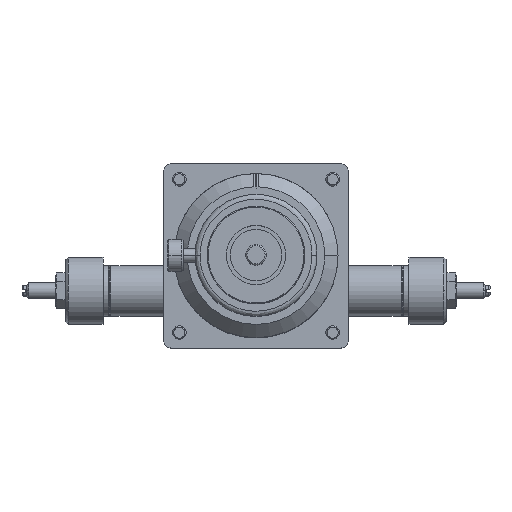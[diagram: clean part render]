
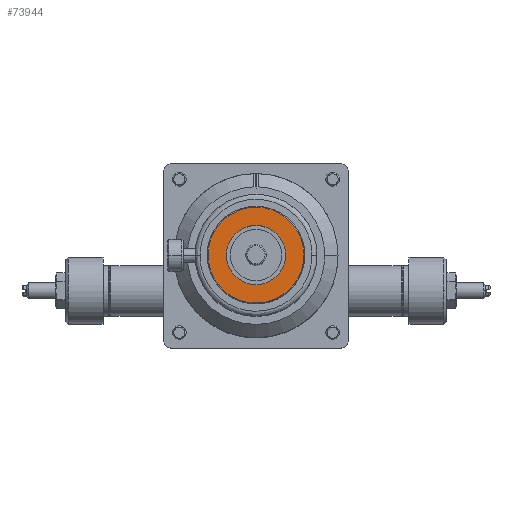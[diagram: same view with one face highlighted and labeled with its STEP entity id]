
A CAD part, top view. The second image highlights one B-rep face of the part: STEP entity #73944.
In plain terms, the highlighted planar face has unit normal (0, 0, 1).
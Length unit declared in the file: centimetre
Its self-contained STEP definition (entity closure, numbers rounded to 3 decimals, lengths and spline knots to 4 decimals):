
#1000 = CARTESIAN_POINT ( 'NONE',  ( 1.4732, 0., 0. ) ) ;
#4430 =( BOUNDED_CURVE ( )  B_SPLINE_CURVE ( 3, ( #68942, #68946, #68979, #68983 ),
 .UNSPECIFIED., .F., .F. ) 
 B_SPLINE_CURVE_WITH_KNOTS ( ( 4, 4 ),
 ( 0., 0.5 ),
 .UNSPECIFIED. ) 
 CURVE ( )  GEOMETRIC_REPRESENTATION_ITEM ( )  RATIONAL_B_SPLINE_CURVE ( ( 1., 0.333, 0.333, 1. ) ) 
 REPRESENTATION_ITEM ( '' )  );
#6408 = CARTESIAN_POINT ( 'NONE',  ( -1.4732, 0., 0. ) ) ;
#12039 = CARTESIAN_POINT ( 'NONE',  ( 0., 0., 0. ) ) ;
#12041 = DIRECTION ( 'NONE',  ( 0., 0., -1. ) ) ;
#12043 = DIRECTION ( 'NONE',  ( -1., 0., 0. ) ) ;
#12348 = CARTESIAN_POINT ( 'NONE',  ( -0.8522, 0., 0. ) ) ;
#12353 = PLANE ( 'NONE',  #50149 ) ;
#12357 = DIRECTION ( 'NONE',  ( 0., 0., 1. ) ) ;
#12359 = DIRECTION ( 'NONE',  ( 1., 0., 0. ) ) ;
#15111 = VERTEX_POINT ( 'NONE', #6408 ) ;
#16784 = ORIENTED_EDGE ( 'NONE', *, *, #50906, .F. ) ;
#19699 = VERTEX_POINT ( 'NONE', #1000 ) ;
#24765 = VERTEX_POINT ( 'NONE', #51485 ) ;
#25239 = VERTEX_POINT ( 'NONE', #51642 ) ;
#31194 = EDGE_CURVE ( 'NONE', #24765, #25239, #32326, .T. ) ;
#31757 = EDGE_CURVE ( 'NONE', #19699, #15111, #45779, .T. ) ;
#32326 = CIRCLE ( 'NONE', #33646, 0.908 ) ;
#33646 = AXIS2_PLACEMENT_3D ( 'NONE', #12039, #12041, #12043 ) ;
#33885 = AXIS2_PLACEMENT_3D ( 'NONE', #42884, #42885, #42886 ) ;
#34715 = ORIENTED_EDGE ( 'NONE', *, *, #31757, .F. ) ;
#38213 = FACE_OUTER_BOUND ( 'NONE', #66704, .T. ) ;
#38235 = FACE_BOUND ( 'NONE', #66623, .T. ) ;
#42884 = CARTESIAN_POINT ( 'NONE',  ( 0., 0., 0. ) ) ;
#42885 = DIRECTION ( 'NONE',  ( 0., 0., -1. ) ) ;
#42886 = DIRECTION ( 'NONE',  ( -1., 0., 0. ) ) ;
#45547 = EDGE_CURVE ( 'NONE', #25239, #24765, #68965, .T. ) ;
#45779 =( BOUNDED_CURVE ( )  B_SPLINE_CURVE ( 3, ( #54346, #54348, #54359, #54360 ),
 .UNSPECIFIED., .F., .F. ) 
 B_SPLINE_CURVE_WITH_KNOTS ( ( 4, 4 ),
 ( 0.5, 1. ),
 .UNSPECIFIED. ) 
 CURVE ( )  GEOMETRIC_REPRESENTATION_ITEM ( )  RATIONAL_B_SPLINE_CURVE ( ( 1., 0.333, 0.333, 1. ) ) 
 REPRESENTATION_ITEM ( '' )  );
#50149 = AXIS2_PLACEMENT_3D ( 'NONE', #12348, #12357, #12359 ) ;
#50906 = EDGE_CURVE ( 'NONE', #15111, #19699, #4430, .T. ) ;
#51485 = CARTESIAN_POINT ( 'NONE',  ( -0.908, 0., 0. ) ) ;
#51642 = CARTESIAN_POINT ( 'NONE',  ( 0.908, 0., 0. ) ) ;
#54346 = CARTESIAN_POINT ( 'NONE',  ( 1.4732, 0., 0. ) ) ;
#54348 = CARTESIAN_POINT ( 'NONE',  ( 1.4732, -2.9464, 0. ) ) ;
#54359 = CARTESIAN_POINT ( 'NONE',  ( -1.4732, -2.9464, 0. ) ) ;
#54360 = CARTESIAN_POINT ( 'NONE',  ( -1.4732, 0., 0. ) ) ;
#58101 = ORIENTED_EDGE ( 'NONE', *, *, #45547, .T. ) ;
#58384 = ORIENTED_EDGE ( 'NONE', *, *, #31194, .T. ) ;
#66623 = EDGE_LOOP ( 'NONE', ( #58384, #58101 ) ) ;
#66704 = EDGE_LOOP ( 'NONE', ( #16784, #34715 ) ) ;
#68942 = CARTESIAN_POINT ( 'NONE',  ( -1.4732, 0., 0. ) ) ;
#68946 = CARTESIAN_POINT ( 'NONE',  ( -1.4732, 2.9464, 0. ) ) ;
#68965 = CIRCLE ( 'NONE', #33885, 0.908 ) ;
#68979 = CARTESIAN_POINT ( 'NONE',  ( 1.4732, 2.9464, 0. ) ) ;
#68983 = CARTESIAN_POINT ( 'NONE',  ( 1.4732, 0., 0. ) ) ;
#73944 = ADVANCED_FACE ( 'NONE', ( #38213, #38235 ), #12353, .T. ) ;
